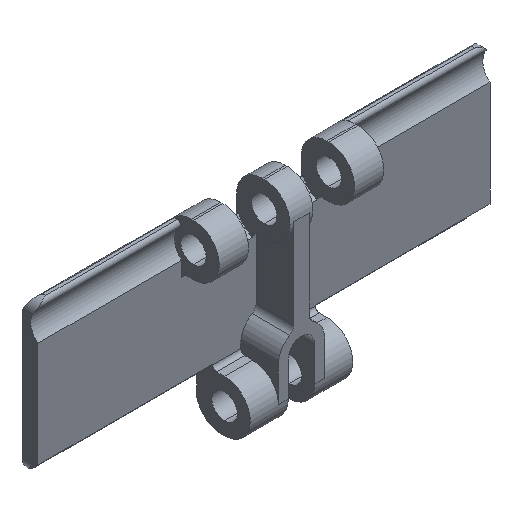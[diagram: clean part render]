
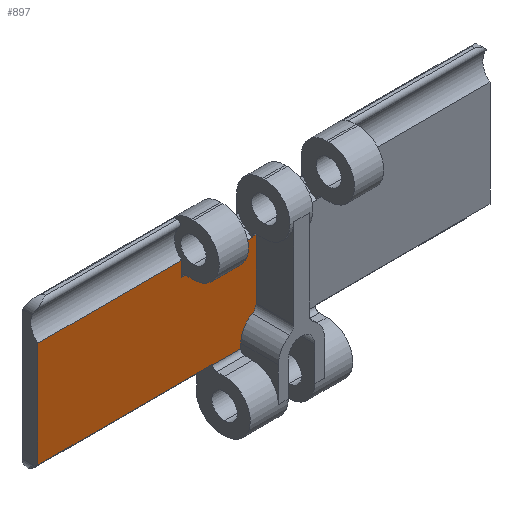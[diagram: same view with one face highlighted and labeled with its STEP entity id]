
A CAD part, isometric view. The second image highlights one B-rep face of the part: STEP entity #897.
In plain terms, the highlighted planar face has unit normal (0, -1, 0).
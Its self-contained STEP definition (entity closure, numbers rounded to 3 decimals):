
#874 = ORIENTED_EDGE ( 'NONE', *, *, #890, .T. ) ;
#875 = VERTEX_POINT ( 'NONE', #2147 ) ;
#876 = EDGE_CURVE ( 'NONE', #875, #878, #2145, .T. ) ;
#877 = ORIENTED_EDGE ( 'NONE', *, *, #2561, .T. ) ;
#878 = VERTEX_POINT ( 'NONE', #2280 ) ;
#879 = ORIENTED_EDGE ( 'NONE', *, *, #882, .T. ) ;
#880 = ORIENTED_EDGE ( 'NONE', *, *, #876, .T. ) ;
#881 = EDGE_CURVE ( 'NONE', #887, #2577, #2276, .T. ) ;
#882 = EDGE_CURVE ( 'NONE', #878, #888, #2282, .T. ) ;
#884 = VERTEX_POINT ( 'NONE', #2265 ) ;
#887 = VERTEX_POINT ( 'NONE', #2261 ) ;
#888 = VERTEX_POINT ( 'NONE', #2274 ) ;
#889 = EDGE_CURVE ( 'NONE', #884, #900, #2255, .T. ) ;
#890 = EDGE_CURVE ( 'NONE', #891, #2012, #2218, .T. ) ;
#891 = VERTEX_POINT ( 'NONE', #2219 ) ;
#892 = ORIENTED_EDGE ( 'NONE', *, *, #881, .T. ) ;
#893 = ORIENTED_EDGE ( 'NONE', *, *, #2047, .T. ) ;
#895 = EDGE_CURVE ( 'NONE', #2575, #884, #2223, .T. ) ;
#896 = ORIENTED_EDGE ( 'NONE', *, *, #895, .T. ) ;
#897 = ADVANCED_FACE ( 'NONE', ( #2222 ), #2271, .F. ) ;
#898 = EDGE_LOOP ( 'NONE', ( #880, #879, #893, #892, #877, #896, #2045, #2043, #874, #2009, #2044, #1908, #1905, #2010, #1904 ) ) ;
#900 = VERTEX_POINT ( 'NONE', #2214 ) ;
#1075 = CARTESIAN_POINT ( 'NONE',  ( -2., 3., -7.5 ) ) ;
#1079 = CARTESIAN_POINT ( 'NONE',  ( -2.9, 3., -7.5 ) ) ;
#1090 = DIRECTION ( 'NONE',  ( -1., 0., 0. ) ) ;
#1091 = VECTOR ( 'NONE', #1090, 1000. ) ;
#1093 = CARTESIAN_POINT ( 'NONE',  ( 20.8, 3., -7.5 ) ) ;
#1094 = LINE ( 'NONE', #1093, #1091 ) ;
#1784 = DIRECTION ( 'NONE',  ( 0., 0., 1. ) ) ;
#1785 = DIRECTION ( 'NONE',  ( 0., -1., 0. ) ) ;
#1787 = DIRECTION ( 'NONE',  ( 0., 0., -1. ) ) ;
#1788 = VECTOR ( 'NONE', #1787, 1000. ) ;
#1789 = CARTESIAN_POINT ( 'NONE',  ( -13.4, 3., -7.5 ) ) ;
#1790 = LINE ( 'NONE', #1789, #1788 ) ;
#1798 = CIRCLE ( 'NONE', #1806, 2. ) ;
#1806 = AXIS2_PLACEMENT_3D ( 'NONE', #1807, #1785, #1784 ) ;
#1807 = CARTESIAN_POINT ( 'NONE',  ( -4., 3., -22.596 ) ) ;
#1904 = ORIENTED_EDGE ( 'NONE', *, *, #2019, .F. ) ;
#1905 = ORIENTED_EDGE ( 'NONE', *, *, #2015, .F. ) ;
#1906 = VERTEX_POINT ( 'NONE', #2744 ) ;
#1908 = ORIENTED_EDGE ( 'NONE', *, *, #1985, .T. ) ;
#1909 = EDGE_CURVE ( 'NONE', #2017, #2011, #2723, .T. ) ;
#1985 = EDGE_CURVE ( 'NONE', #2011, #2013, #2777, .T. ) ;
#2009 = ORIENTED_EDGE ( 'NONE', *, *, #2014, .F. ) ;
#2010 = ORIENTED_EDGE ( 'NONE', *, *, #2018, .T. ) ;
#2011 = VERTEX_POINT ( 'NONE', #2702 ) ;
#2012 = VERTEX_POINT ( 'NONE', #2789 ) ;
#2013 = VERTEX_POINT ( 'NONE', #2701 ) ;
#2014 = EDGE_CURVE ( 'NONE', #2017, #2012, #2699, .T. ) ;
#2015 = EDGE_CURVE ( 'NONE', #1906, #2013, #2706, .T. ) ;
#2016 = VERTEX_POINT ( 'NONE', #2700 ) ;
#2017 = VERTEX_POINT ( 'NONE', #2715 ) ;
#2018 = EDGE_CURVE ( 'NONE', #1906, #2016, #2689, .T. ) ;
#2019 = EDGE_CURVE ( 'NONE', #875, #2016, #2783, .T. ) ;
#2043 = ORIENTED_EDGE ( 'NONE', *, *, #2046, .F. ) ;
#2044 = ORIENTED_EDGE ( 'NONE', *, *, #1909, .T. ) ;
#2045 = ORIENTED_EDGE ( 'NONE', *, *, #889, .T. ) ;
#2046 = EDGE_CURVE ( 'NONE', #891, #900, #1790, .T. ) ;
#2047 = EDGE_CURVE ( 'NONE', #888, #887, #1798, .T. ) ;
#2145 = LINE ( 'NONE', #2279, #2278 ) ;
#2147 = CARTESIAN_POINT ( 'NONE',  ( -5.85, 3., -30.6 ) ) ;
#2203 = DIRECTION ( 'NONE',  ( 0., 0., 1. ) ) ;
#2204 = DIRECTION ( 'NONE',  ( 0., 1., 0. ) ) ;
#2206 = CARTESIAN_POINT ( 'NONE',  ( 57.15, 3., -3.747 ) ) ;
#2209 = DIRECTION ( 'NONE',  ( 0., 0., -1. ) ) ;
#2210 = VECTOR ( 'NONE', #2209, 1000. ) ;
#2211 = CARTESIAN_POINT ( 'NONE',  ( -2.9, 3., -7.5 ) ) ;
#2214 = CARTESIAN_POINT ( 'NONE',  ( -13.4, 3., -7.683 ) ) ;
#2215 = DIRECTION ( 'NONE',  ( -1., 0., 0. ) ) ;
#2216 = VECTOR ( 'NONE', #2215, 1000. ) ;
#2217 = CARTESIAN_POINT ( 'NONE',  ( 20.8, 3., -7.5 ) ) ;
#2218 = LINE ( 'NONE', #2217, #2216 ) ;
#2219 = CARTESIAN_POINT ( 'NONE',  ( -13.4, 3., -7.5 ) ) ;
#2220 = DIRECTION ( 'NONE',  ( -1., 0., 0. ) ) ;
#2221 = VECTOR ( 'NONE', #2220, 1000. ) ;
#2222 = FACE_OUTER_BOUND ( 'NONE', #898, .T. ) ;
#2223 = LINE ( 'NONE', #2211, #2210 ) ;
#2224 = AXIS2_PLACEMENT_3D ( 'NONE', #2206, #2204, #2203 ) ;
#2254 = CARTESIAN_POINT ( 'NONE',  ( -2.9, 3., -7.683 ) ) ;
#2255 = LINE ( 'NONE', #2254, #2221 ) ;
#2261 = CARTESIAN_POINT ( 'NONE',  ( -2., 3., -22.596 ) ) ;
#2265 = CARTESIAN_POINT ( 'NONE',  ( -2.9, 3., -7.683 ) ) ;
#2266 = DIRECTION ( 'NONE',  ( 0., 0., 1. ) ) ;
#2267 = DIRECTION ( 'NONE',  ( 0., 1., 0. ) ) ;
#2268 = CARTESIAN_POINT ( 'NONE',  ( 0., 3., -29.35 ) ) ;
#2269 = AXIS2_PLACEMENT_3D ( 'NONE', #2268, #2267, #2266 ) ;
#2271 = PLANE ( 'NONE',  #2224 ) ;
#2272 = DIRECTION ( 'NONE',  ( 0., 0., 1. ) ) ;
#2273 = VECTOR ( 'NONE', #2272, 1000. ) ;
#2274 = CARTESIAN_POINT ( 'NONE',  ( -2.981, 3., -24.316 ) ) ;
#2275 = CARTESIAN_POINT ( 'NONE',  ( -2., 3., 0. ) ) ;
#2276 = LINE ( 'NONE', #2275, #2273 ) ;
#2277 = DIRECTION ( 'NONE',  ( 0., 0., 1. ) ) ;
#2278 = VECTOR ( 'NONE', #2277, 1000. ) ;
#2279 = CARTESIAN_POINT ( 'NONE',  ( -5.85, 3., -38.1 ) ) ;
#2280 = CARTESIAN_POINT ( 'NONE',  ( -5.85, 3., -29.35 ) ) ;
#2282 = CIRCLE ( 'NONE', #2269, 5.85 ) ;
#2561 = EDGE_CURVE ( 'NONE', #2577, #2575, #1094, .T. ) ;
#2575 = VERTEX_POINT ( 'NONE', #1079 ) ;
#2577 = VERTEX_POINT ( 'NONE', #1075 ) ;
#2681 = DIRECTION ( 'NONE',  ( -1., 0., 0. ) ) ;
#2682 = VECTOR ( 'NONE', #2681, 1000. ) ;
#2685 = CARTESIAN_POINT ( 'NONE',  ( 12.95, 3., -30.6 ) ) ;
#2686 = DIRECTION ( 'NONE',  ( 0., 0., -1. ) ) ;
#2687 = VECTOR ( 'NONE', #2686, 1000. ) ;
#2688 = CARTESIAN_POINT ( 'NONE',  ( -12.95, 3., -30.417 ) ) ;
#2689 = LINE ( 'NONE', #2688, #2687 ) ;
#2692 = DIRECTION ( 'NONE',  ( -1., 0., 0. ) ) ;
#2693 = VECTOR ( 'NONE', #2692, 1000. ) ;
#2694 = CARTESIAN_POINT ( 'NONE',  ( 57.15, 3., -30.417 ) ) ;
#2696 = DIRECTION ( 'NONE',  ( 0., 0., -1. ) ) ;
#2697 = VECTOR ( 'NONE', #2696, 1000. ) ;
#2698 = CARTESIAN_POINT ( 'NONE',  ( -20.8, 3., -3.747 ) ) ;
#2699 = LINE ( 'NONE', #2698, #2697 ) ;
#2700 = CARTESIAN_POINT ( 'NONE',  ( -12.95, 3., -30.6 ) ) ;
#2701 = CARTESIAN_POINT ( 'NONE',  ( -57.15, 3., -30.417 ) ) ;
#2702 = CARTESIAN_POINT ( 'NONE',  ( -57.15, 3., -3.747 ) ) ;
#2703 = DIRECTION ( 'NONE',  ( 0., 0., -1. ) ) ;
#2704 = VECTOR ( 'NONE', #2703, 1000. ) ;
#2705 = CARTESIAN_POINT ( 'NONE',  ( -57.15, 3., -3.747 ) ) ;
#2706 = LINE ( 'NONE', #2694, #2693 ) ;
#2715 = CARTESIAN_POINT ( 'NONE',  ( -20.8, 3., -3.747 ) ) ;
#2723 = LINE ( 'NONE', #2845, #2814 ) ;
#2744 = CARTESIAN_POINT ( 'NONE',  ( -12.95, 3., -30.417 ) ) ;
#2777 = LINE ( 'NONE', #2705, #2704 ) ;
#2783 = LINE ( 'NONE', #2685, #2682 ) ;
#2789 = CARTESIAN_POINT ( 'NONE',  ( -20.8, 3., -7.5 ) ) ;
#2813 = DIRECTION ( 'NONE',  ( -1., 0., 0. ) ) ;
#2814 = VECTOR ( 'NONE', #2813, 1000. ) ;
#2845 = CARTESIAN_POINT ( 'NONE',  ( 57.15, 3., -3.747 ) ) ;
